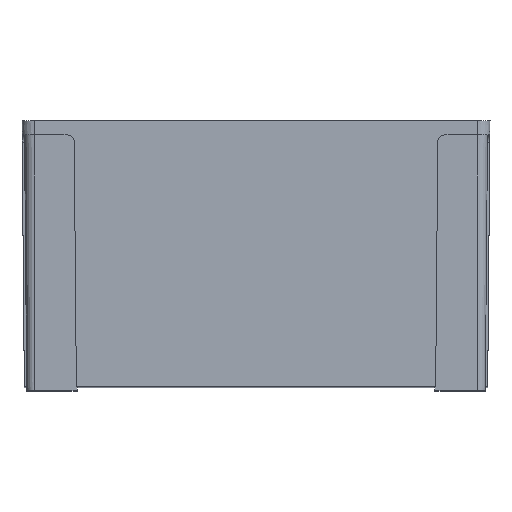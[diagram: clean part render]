
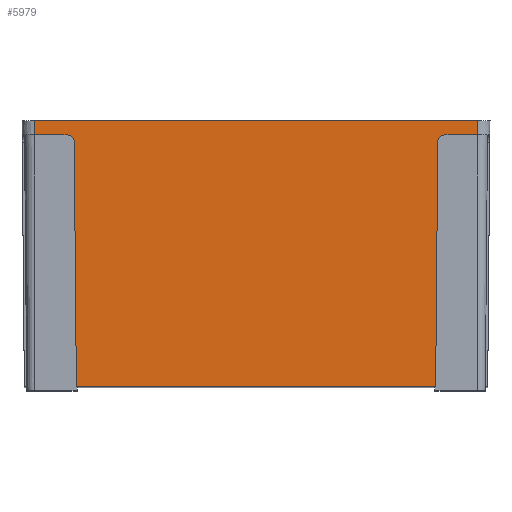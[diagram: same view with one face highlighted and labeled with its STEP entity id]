
A CAD part, top view. The second image highlights one B-rep face of the part: STEP entity #5979.
In plain terms, the highlighted planar face has unit normal (0, -0.009, 1).
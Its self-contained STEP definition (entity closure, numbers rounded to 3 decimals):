
#301 = VECTOR ( 'NONE', #4432, 1000. ) ;
#373 = ORIENTED_EDGE ( 'NONE', *, *, #8155, .T. ) ;
#420 = ORIENTED_EDGE ( 'NONE', *, *, #8156, .T. ) ;
#445 = ORIENTED_EDGE ( 'NONE', *, *, #8151, .T. ) ;
#471 = ORIENTED_EDGE ( 'NONE', *, *, #8152, .F. ) ;
#506 = ORIENTED_EDGE ( 'NONE', *, *, #8154, .F. ) ;
#655 = ORIENTED_EDGE ( 'NONE', *, *, #7938, .T. ) ;
#700 = ORIENTED_EDGE ( 'NONE', *, *, #8149, .T. ) ;
#709 = ORIENTED_EDGE ( 'NONE', *, *, #8225, .F. ) ;
#713 = ORIENTED_EDGE ( 'NONE', *, *, #8148, .F. ) ;
#766 = ORIENTED_EDGE ( 'NONE', *, *, #8153, .F. ) ;
#894 =( BOUNDED_CURVE ( )  B_SPLINE_CURVE ( 3, ( #5031, #5032, #5033, #5034 ),
 .UNSPECIFIED., .F., .T. ) 
 B_SPLINE_CURVE_WITH_KNOTS ( ( 4, 4 ),
 ( 1.58, 3.142 ),
 .UNSPECIFIED. ) 
 CURVE ( )  GEOMETRIC_REPRESENTATION_ITEM ( )  RATIONAL_B_SPLINE_CURVE ( ( 1., 0.807, 0.807, 1. ) ) 
 REPRESENTATION_ITEM ( '' )  );
#897 =( BOUNDED_CURVE ( )  B_SPLINE_CURVE ( 3, ( #5017, #5018, #5019, #5020 ),
 .UNSPECIFIED., .F., .T. ) 
 B_SPLINE_CURVE_WITH_KNOTS ( ( 4, 4 ),
 ( 3.142, 4.704 ),
 .UNSPECIFIED. ) 
 CURVE ( )  GEOMETRIC_REPRESENTATION_ITEM ( )  RATIONAL_B_SPLINE_CURVE ( ( 1., 0.807, 0.807, 1. ) ) 
 REPRESENTATION_ITEM ( '' )  );
#1242 = VERTEX_POINT ( 'NONE', #7439 ) ;
#1294 = VERTEX_POINT ( 'NONE', #7500 ) ;
#1300 = VERTEX_POINT ( 'NONE', #7477 ) ;
#1417 = VERTEX_POINT ( 'NONE', #2051 ) ;
#1489 = VERTEX_POINT ( 'NONE', #2123 ) ;
#1506 = VERTEX_POINT ( 'NONE', #2140 ) ;
#1507 = VERTEX_POINT ( 'NONE', #2141 ) ;
#1510 = VERTEX_POINT ( 'NONE', #2144 ) ;
#1512 = VERTEX_POINT ( 'NONE', #2146 ) ;
#1513 = VERTEX_POINT ( 'NONE', #2147 ) ;
#1640 = VECTOR ( 'NONE', #5016, 1000. ) ;
#1644 = VECTOR ( 'NONE', #5024, 1000. ) ;
#1657 = VECTOR ( 'NONE', #5036, 1000. ) ;
#1659 = VECTOR ( 'NONE', #5030, 1000. ) ;
#1661 = VECTOR ( 'NONE', #5028, 1000. ) ;
#1662 = VECTOR ( 'NONE', #5026, 1000. ) ;
#1731 = VECTOR ( 'NONE', #9721, 1000. ) ;
#1886 = LINE ( 'NONE', #9720, #1731 ) ;
#2051 = CARTESIAN_POINT ( 'NONE',  ( 49.939, -74., 89.404 ) ) ;
#2123 = CARTESIAN_POINT ( 'NONE',  ( -49.939, -74., 89.404 ) ) ;
#2140 = CARTESIAN_POINT ( 'NONE',  ( -50.533, -5.983, 89.998 ) ) ;
#2141 = CARTESIAN_POINT ( 'NONE',  ( -61.55, 0., 90.05 ) ) ;
#2144 = CARTESIAN_POINT ( 'NONE',  ( -61.55, -4., 90.015 ) ) ;
#2146 = CARTESIAN_POINT ( 'NONE',  ( 52.533, -4., 90.015 ) ) ;
#2147 = CARTESIAN_POINT ( 'NONE',  ( -52.533, -4., 90.015 ) ) ;
#3168 = PLANE ( 'NONE',  #7872 ) ;
#3169 = CARTESIAN_POINT ( 'NONE',  ( -61.55, 0., 90.05 ) ) ;
#3170 = DIRECTION ( 'NONE',  ( 0., -0.009, 1. ) ) ;
#3171 = DIRECTION ( 'NONE',  ( 0., -1., -0.009 ) ) ;
#4431 = CARTESIAN_POINT ( 'NONE',  ( -61.55, -74., 89.404 ) ) ;
#4432 = DIRECTION ( 'NONE',  ( 1., 0., 0. ) ) ;
#5015 = CARTESIAN_POINT ( 'NONE',  ( -50.586, 0.096, 90.051 ) ) ;
#5016 = DIRECTION ( 'NONE',  ( -0.009, 1., 0.009 ) ) ;
#5017 = CARTESIAN_POINT ( 'NONE',  ( -52.533, -4., 90.015 ) ) ;
#5018 = CARTESIAN_POINT ( 'NONE',  ( -51.369, -4., 90.015 ) ) ;
#5019 = CARTESIAN_POINT ( 'NONE',  ( -50.543, -4.819, 90.008 ) ) ;
#5020 = CARTESIAN_POINT ( 'NONE',  ( -50.533, -5.983, 89.998 ) ) ;
#5023 = CARTESIAN_POINT ( 'NONE',  ( -61.55, -4., 90.015 ) ) ;
#5024 = DIRECTION ( 'NONE',  ( 1., 0., 0. ) ) ;
#5025 = CARTESIAN_POINT ( 'NONE',  ( -61.55, 0., 90.05 ) ) ;
#5026 = DIRECTION ( 'NONE',  ( 1., 0., 0. ) ) ;
#5027 = CARTESIAN_POINT ( 'NONE',  ( -61.55, -4., 90.015 ) ) ;
#5028 = DIRECTION ( 'NONE',  ( -1., 0., 0. ) ) ;
#5029 = CARTESIAN_POINT ( 'NONE',  ( 50.576, -0.978, 90.041 ) ) ;
#5030 = DIRECTION ( 'NONE',  ( -0.009, -1., -0.009 ) ) ;
#5031 = CARTESIAN_POINT ( 'NONE',  ( 50.533, -5.983, 89.998 ) ) ;
#5032 = CARTESIAN_POINT ( 'NONE',  ( 50.543, -4.819, 90.008 ) ) ;
#5033 = CARTESIAN_POINT ( 'NONE',  ( 51.369, -4., 90.015 ) ) ;
#5034 = CARTESIAN_POINT ( 'NONE',  ( 52.533, -4., 90.015 ) ) ;
#5035 = CARTESIAN_POINT ( 'NONE',  ( 61.55, 0., 90.05 ) ) ;
#5036 = DIRECTION ( 'NONE',  ( 0., 1., 0.009 ) ) ;
#5338 = EDGE_LOOP ( 'NONE', ( #506, #373, #766, #420, #471, #709, #445, #700, #713, #655 ) ) ;
#5979 = ADVANCED_FACE ( 'NONE', ( #6977 ), #3168, .T. ) ;
#6218 = LINE ( 'NONE', #5035, #1657 ) ;
#6219 = LINE ( 'NONE', #5029, #1659 ) ;
#6220 = LINE ( 'NONE', #5027, #1661 ) ;
#6221 = LINE ( 'NONE', #5025, #1662 ) ;
#6222 = LINE ( 'NONE', #5023, #1644 ) ;
#6224 = LINE ( 'NONE', #5015, #1640 ) ;
#6977 = FACE_OUTER_BOUND ( 'NONE', #5338, .T. ) ;
#7243 = LINE ( 'NONE', #4431, #301 ) ;
#7439 = CARTESIAN_POINT ( 'NONE',  ( 50.533, -5.983, 89.998 ) ) ;
#7477 = CARTESIAN_POINT ( 'NONE',  ( 61.55, 0., 90.05 ) ) ;
#7500 = CARTESIAN_POINT ( 'NONE',  ( 61.55, -4., 90.015 ) ) ;
#7872 = AXIS2_PLACEMENT_3D ( 'NONE', #3169, #3170, #3171 ) ;
#7938 = EDGE_CURVE ( 'NONE', #1489, #1417, #7243, .T. ) ;
#8148 = EDGE_CURVE ( 'NONE', #1489, #1506, #6224, .T. ) ;
#8149 = EDGE_CURVE ( 'NONE', #1513, #1506, #897, .T. ) ;
#8151 = EDGE_CURVE ( 'NONE', #1510, #1513, #6222, .T. ) ;
#8152 = EDGE_CURVE ( 'NONE', #1507, #1300, #6221, .T. ) ;
#8153 = EDGE_CURVE ( 'NONE', #1294, #1512, #6220, .T. ) ;
#8154 = EDGE_CURVE ( 'NONE', #1242, #1417, #6219, .T. ) ;
#8155 = EDGE_CURVE ( 'NONE', #1242, #1512, #894, .T. ) ;
#8156 = EDGE_CURVE ( 'NONE', #1294, #1300, #6218, .T. ) ;
#8225 = EDGE_CURVE ( 'NONE', #1510, #1507, #1886, .T. ) ;
#9720 = CARTESIAN_POINT ( 'NONE',  ( -61.55, 0., 90.05 ) ) ;
#9721 = DIRECTION ( 'NONE',  ( 0., 1., 0.009 ) ) ;
